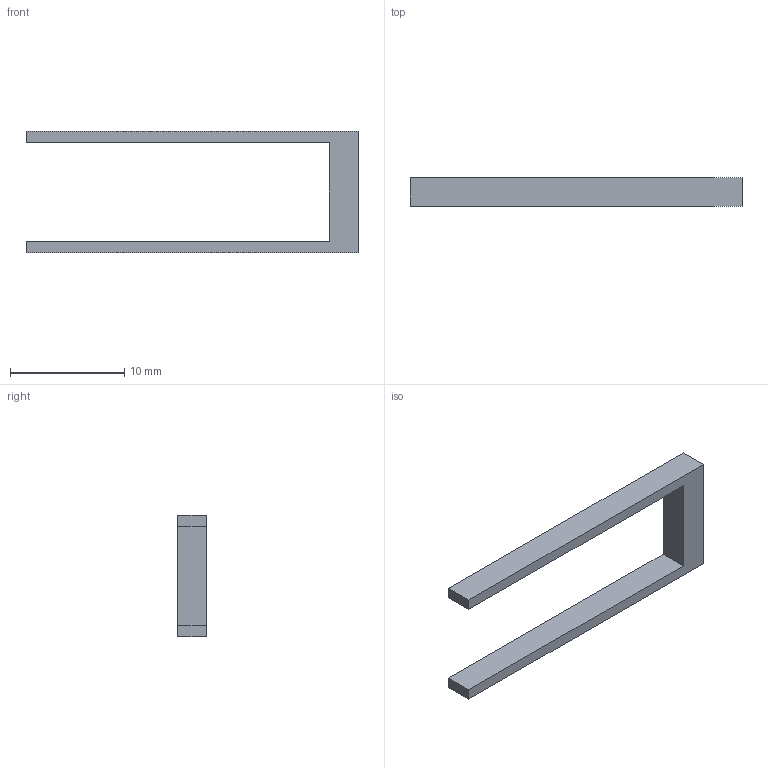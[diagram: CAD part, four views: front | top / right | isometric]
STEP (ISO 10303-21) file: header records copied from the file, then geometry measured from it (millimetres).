
FILE_DESCRIPTION(('FreeCAD Model'),'2;1');
FILE_NAME('Open CASCADE Shape Model','2026-11-20T08:25:32',('FreeCAD'),( 'FreeCAD'),'Open CASCADE STEP processor 7.8','FreeCAD','Unknown');
FILE_SCHEMA(('AUTOMOTIVE_DESIGN { 1 0 10303 214 1 1 1 1 }'));
Length unit declared in the file: millimetre
Products named in the file (1): Open CASCADE STEP translator 7.8 8
Bounding box: 29 x 2.5 x 10.6 mm (x, y, z)
Volume: 198.8 mm3; surface area: 489.5 mm2
Topology: 1 solids, 1 shells, 10 faces, 24 edges, 16 vertices
Faces by surface type: plane 10
Entity records: 298 total; most frequent: CARTESIAN_POINT 51, ORIENTED_EDGE 48, DIRECTION 46, EDGE_CURVE 24, LINE 24, VECTOR 24, VERTEX_POINT 16, AXIS2_PLACEMENT_3D 11
